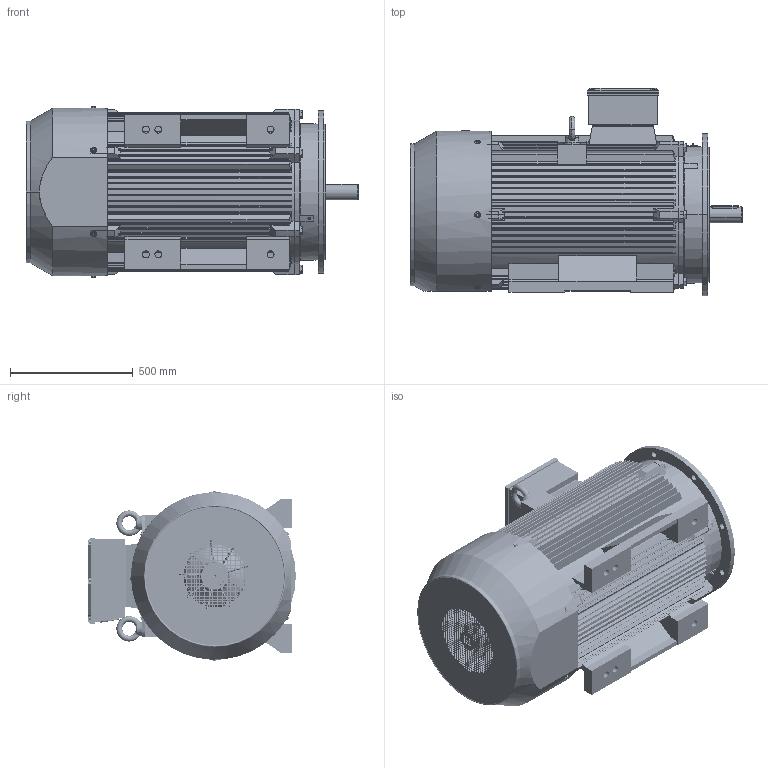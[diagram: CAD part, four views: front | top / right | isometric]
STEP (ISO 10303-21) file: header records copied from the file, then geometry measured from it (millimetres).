
FILE_DESCRIPTION (( 'STEP AP203' ), '1' );
FILE_NAME ('Motor-315M-2_B35_Step.STEP', '2024-06-26T10:39:52', ( '' ), ( '' ), 'SwSTEP 2.0', 'SolidWorks 2021', '' );
FILE_SCHEMA (( 'CONFIG_CONTROL_DESIGN' ));
Length unit declared in the file: millimetre
Products named in the file (23): M10-90_____^Motor-315M-2_B35_Step(2)_Motor-315M-2_B35_Step; M20-70_____^Motor-315M-2_B35_Step(2)_Motor-315M-2_B35_Step; ____M30_____^Motor-315M-2_B35_Step(2)_Motor-315M-2_B35_Step; M10-25_____^Motor-315M-2_B35_Step(2)_Motor-315M-2_B35_Step; M63_________^Motor-315M-2_B35_Step(2)_Motor-315M-2_B35_Step; Motor-315M-2_B35_Step; TE315-2_____________-1^Motor-315M-2_B35_Step(2)_Motor-315M-2_B35_Step; ___________^Motor-315M-2_B35_Step(2)_Motor-315M-2_B35_Step; TE315-2____B5_____^Motor-315M-2_B35_Step(2)_Motor-315M-2_B35_Step; TE315-2_________-2^Motor-315M-2_B35_Step(2)_Motor-315M-2_B35_Step; TX315___________________^Motor-315M-2_B35_Step(2)_Motor-315M-2_B35_Step; _________^Motor-315M-2_B35_Step(2)_Motor-315M-2_B35_Step; ___________________^Motor-315M-2_B35_Step(2)_Motor-315M-2_B35_Step; TC 315M-L_________^Motor-315M-2_B35_Step(2)_Motor-315M-2_B35_Step; TC 315_____________-0^Motor-315M-2_B35_Step(2)_Motor-315M-2_B35_Step; TE315-2_____________^Motor-315M-2_B35_Step(2)_Motor-315M-2_B35_Step; TC 315L-2 _______^Motor-315M-2_B35_Step(2)_Motor-315M-2_B35_Step; Motor-315M-2_B35_Step(2)^Motor-315M-2_B35_Step; TC 315_____________^Motor-315M-2_B35_Step(2)_Motor-315M-2_B35_Step; TC 315-4_________^Motor-315M-2_B35_Step(2)_Motor-315M-2_B35_Step; TE315-2_________^Motor-315M-2_B35_Step(2)_Motor-315M-2_B35_Step; TX315_______________^Motor-315M-2_B35_Step(2)_Motor-315M-2_B35_Step; ____110-85-12_____^Motor-315M-2_B35_Step(2)_Motor-315M-2_B35_Step
Assembly tree (45 placements, depth 3):
  Motor-315M-2_B35_Step
    Motor-315M-2_B35_Step(2)^Motor-315M-2_B35_Step
      TE315-2_________^Motor-315M-2_B35_Step(2)_Motor-315M-2_B35_Step
      M20-70_____^Motor-315M-2_B35_Step(2)_Motor-315M-2_B35_Step  x6
      TC 315-4_________^Motor-315M-2_B35_Step(2)_Motor-315M-2_B35_Step
      M10-25_____^Motor-315M-2_B35_Step(2)_Motor-315M-2_B35_Step  x6
      ____M30_____^Motor-315M-2_B35_Step(2)_Motor-315M-2_B35_Step  x2
      ___________^Motor-315M-2_B35_Step(2)_Motor-315M-2_B35_Step  x3
      ___________________^Motor-315M-2_B35_Step(2)_Motor-315M-2_B35_Step  x6
      TC 315L-2 _______^Motor-315M-2_B35_Step(2)_Motor-315M-2_B35_Step
      TC 315_____________^Motor-315M-2_B35_Step(2)_Motor-315M-2_B35_Step
      M63_________^Motor-315M-2_B35_Step(2)_Motor-315M-2_B35_Step  x2
      TE315-2_____________^Motor-315M-2_B35_Step(2)_Motor-315M-2_B35_Step  x2
      TE315-2____B5_____^Motor-315M-2_B35_Step(2)_Motor-315M-2_B35_Step
      TX315_______________^Motor-315M-2_B35_Step(2)_Motor-315M-2_B35_Step
      TC 315_____________-0^Motor-315M-2_B35_Step(2)_Motor-315M-2_B35_Step
      M10-90_____^Motor-315M-2_B35_Step(2)_Motor-315M-2_B35_Step  x4
      TE315-2_____________-1^Motor-315M-2_B35_Step(2)_Motor-315M-2_B35_Step
      TC 315M-L_________^Motor-315M-2_B35_Step(2)_Motor-315M-2_B35_Step
      TE315-2_________-2^Motor-315M-2_B35_Step(2)_Motor-315M-2_B35_Step
      ____110-85-12_____^Motor-315M-2_B35_Step(2)_Motor-315M-2_B35_Step
      _________^Motor-315M-2_B35_Step(2)_Motor-315M-2_B35_Step
      TX315___________________^Motor-315M-2_B35_Step(2)_Motor-315M-2_B35_Step
Bounding box: 1352 x 846 x 694.6 mm (x, y, z)
Volume: 74961560.2 mm3; surface area: 12483295.7 mm2
Topology: 47 solids, 47 shells, 7776 faces, 22051 edges, 14507 vertices
Faces by surface type: plane 3901, cylinder 3082, cone 441, torus 246, bspline 94, sphere 12
Entity records: 262578 total; most frequent: CARTESIAN_POINT 66459, ORIENTED_EDGE 41288, DIRECTION 39698, EDGE_CURVE 20644, AXIS2_PLACEMENT_3D 13708, VERTEX_POINT 13632, LINE 12282, VECTOR 12282
